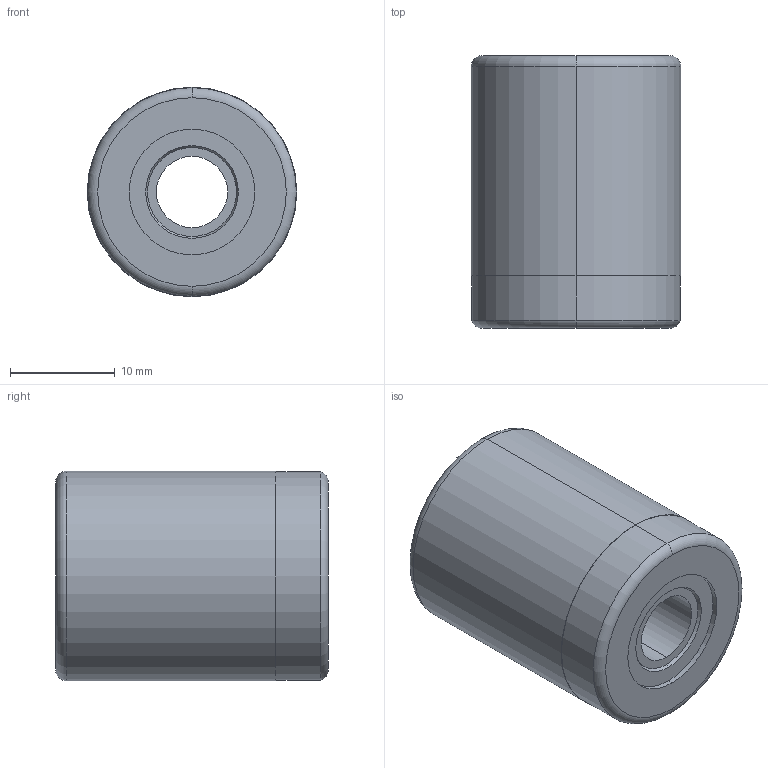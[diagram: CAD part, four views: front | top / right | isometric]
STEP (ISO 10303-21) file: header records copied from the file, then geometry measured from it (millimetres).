
FILE_DESCRIPTION (( 'STEP AP214' ), '1' );
FILE_NAME ('GLU20B.STEP', '2019-11-12T09:18:46', ( '微软用户' ), ( '微软中国' ), 'SwSTEP 2.0', 'SolidWorks 2016', '' );
FILE_SCHEMA (( 'AUTOMOTIVE_DESIGN' ));
Length unit declared in the file: millimetre
Products named in the file (1): GLU20B
Bounding box: 20 x 26 x 20 mm (x, y, z)
Volume: 5518.9 mm3; surface area: 2907 mm2
Topology: 1 solids, 1 shells, 30 faces, 60 edges, 36 vertices
Faces by surface type: cylinder 12, torus 6, cone 6, plane 6
Entity records: 850 total; most frequent: DIRECTION 164, CARTESIAN_POINT 127, ORIENTED_EDGE 120, AXIS2_PLACEMENT_3D 73, EDGE_CURVE 60, CIRCLE 42, EDGE_LOOP 36, VERTEX_POINT 36
